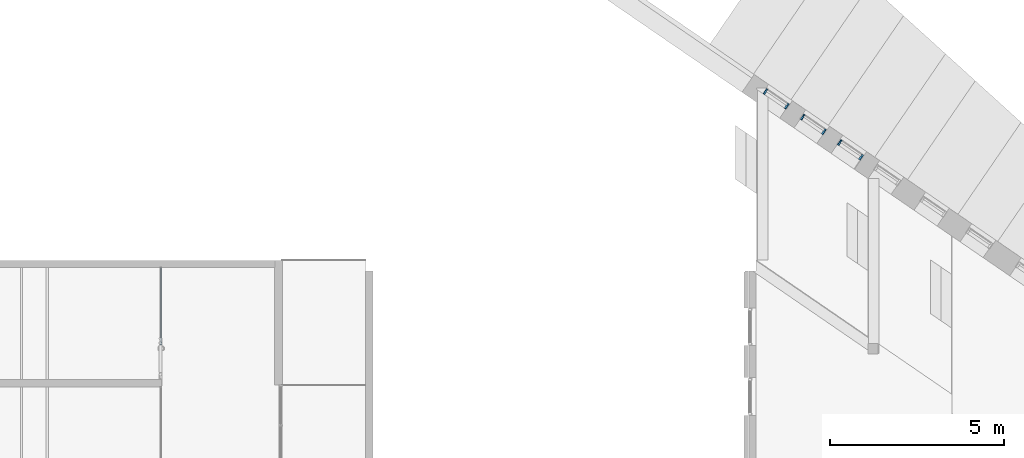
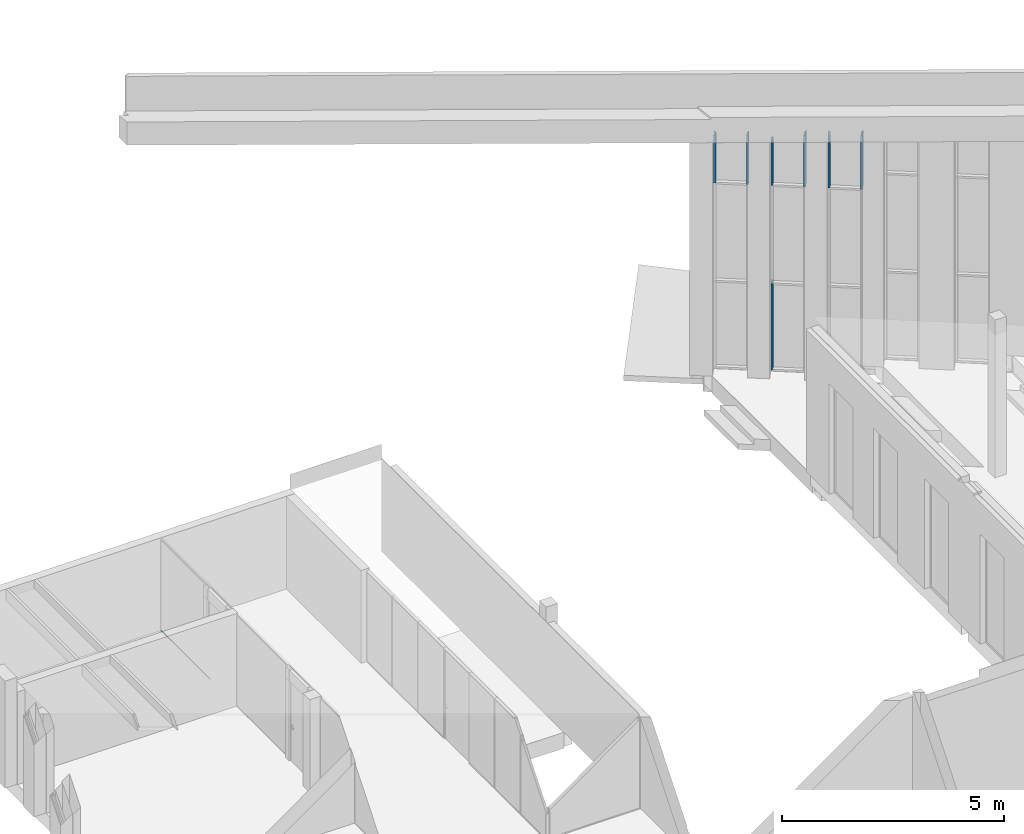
# One storey, part 26 of 79: 8 members, 4 elements without a shape of their own.
"""IFC2X3 building model written with IfcOpenShell, lengths in millimetres."""

from ifc_helpers import new_model, entity, si_unit, converted_unit, derived_unit, money_unit, direction, frame, origin_with_axes, place, context, subcontext, project, spatial, faceted_brep, material, material_list, type_object, element, aggregate, save


model = new_model("IFC2X3")

# Units and contexts
model_context = context("Model", 3, precision=0.01, world=origin_with_axes(), true_north=direction((0.0, 1.0)))
body_context = subcontext(model_context, "Body", "Model", "MODEL_VIEW")
ifc_project = project(units=[si_unit("LENGTHUNIT", "METRE", prefix="MILLI"), si_unit("AREAUNIT", "SQUARE_METRE"), si_unit("VOLUMEUNIT", "CUBIC_METRE"), converted_unit("PLANEANGLEUNIT", "DEGREE", entity("IfcPlaneAngleMeasure", 0.0174532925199), si_unit("PLANEANGLEUNIT", "RADIAN"), dimensions=[0, 0, 0, 0, 0, 0, 0]), si_unit("SOLIDANGLEUNIT", "STERADIAN"), money_unit("EUR"), converted_unit("TIMEUNIT", "Year", entity("IfcTimeMeasure", 31556926.0), si_unit("TIMEUNIT", "SECOND"), dimensions=[0, 0, 1, 0, 0, 0, 0]), si_unit("MASSUNIT", "GRAM", prefix="KILO"), si_unit("THERMODYNAMICTEMPERATUREUNIT", "DEGREE_CELSIUS"), si_unit("LUMINOUSINTENSITYUNIT", "LUMEN"), si_unit("ENERGYUNIT", "JOULE", prefix="MEGA"), derived_unit("THERMALCONDUCTANCEUNIT", [(si_unit("POWERUNIT", "WATT"), 1), (si_unit("LENGTHUNIT", "METRE"), -1), (si_unit("THERMODYNAMICTEMPERATUREUNIT", "KELVIN"), -1)]), derived_unit("SPECIFICHEATCAPACITYUNIT", [(si_unit("ENERGYUNIT", "JOULE"), 1), (si_unit("MASSUNIT", "GRAM", prefix="KILO"), -1), (si_unit("THERMODYNAMICTEMPERATUREUNIT", "KELVIN"), -1)]), derived_unit("MASSDENSITYUNIT", [(si_unit("MASSUNIT", "GRAM", prefix="KILO"), 1), (si_unit("VOLUMEUNIT", "CUBIC_METRE"), -1)])], contexts=[model_context])

# Site, building, storey
site_placement = place(None, origin_with_axes())
site = spatial("IfcSite", under=ifc_project, at=site_placement, Name="L.Koidula tn 11b", CompositionType="ELEMENT")
building_placement = place(site_placement, origin_with_axes())
building = spatial("IfcBuilding", under=site, at=building_placement, Name="Rakvere Riigigümnaasium", CompositionType="ELEMENT")
storey_placement = place(building_placement, frame((0.0, 0.0, 3720.0), z_axis=(0.0, 0.0, 1.0), x_axis=(1.0, 0.0, 0.0)))
storey = spatial("IfcBuildingStorey", under=building, at=storey_placement, Name="2.korrus +3,72", CompositionType="ELEMENT", Elevation=3720.0)

# Curtain wall, members
curtain_wall_type = type_object("IfcCurtainWallType", Name="Curtain Wall Type", PredefinedType="NOTDEFINED")
curtain_wall_1_placement = place(storey_placement, frame((58784.8898209, 36159.1031473, -1860.00002162), z_axis=(0.0, 0.0, 1.0), x_axis=(1.0, 0.0, 0.0)))
curtain_wall_1 = element("IfcCurtainWall", 1, at=curtain_wall_1_placement, inside=storey, type_object=curtain_wall_type, Name="KLF-06-21")
ifc_material_1 = material(Name="Alumiiniumprofiil (RAL 7021)")
member_type_1 = type_object("IfcMemberType", Name="Boundary Frame 50 x 170", PredefinedType="MULLION")
member_1_placement = place(curtain_wall_1_placement, frame((325.567600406, -223.299350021, 5100.00007855), z_axis=(-5.18690348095e-09, 3.55757891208e-09, 1.0), x_axis=(-0.824666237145, 0.565619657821, -6.28970074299e-09)))
member_1 = element("IfcMember", 2, at=member_1_placement, type_object=member_type_1, material=ifc_material_1, Name="KLF-06-50-Profiilid", ObjectType="MULLION", context=body_context, shape_type="Brep", body=[
    faceted_brep([(36.9999916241, 26.0, 1331.69211326), (49.9999917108, 26.0, 1317.89649849), (49.9999917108, 124.0, 1317.89649849), (-8.62290505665e-06, 124.0, 1370.9565553), (-8.62290505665e-06, -46.0, 1370.9565553), (49.9999917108, -46.0, 1317.89649849), (49.9999917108, -26.0, 1317.89649849), (36.9999916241, -26.0, 1331.69211326), (37.0, 26.0, -6.09086114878e-07), (50.0, 26.0, -5.2732040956e-07), (50.0, 124.0, -5.2732040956e-07), (0.0, 124.0, -8.41805736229e-07), (0.0, -46.0, -8.41805736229e-07), (50.0, -46.0, -5.2732040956e-07), (50.0, -26.0, -5.2732040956e-07), (37.0, -26.0, -6.09086114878e-07)], [[[0, 1, 2, 3, 4, 5, 6, 7]], [[0, 8, 9, 1]], [[9, 10, 2, 1]], [[10, 11, 3, 2]], [[11, 12, 4, 3]], [[12, 13, 5, 4]], [[6, 5, 13, 14]], [[14, 15, 7, 6]], [[7, 15, 8, 0]], [[8, 15, 14, 13, 12, 11, 10, 9]]]),
])
member_2_placement = place(curtain_wall_1_placement, frame((-325.567650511, 223.299384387, 6424.02720864), z_axis=(8.10560454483e-08, -5.55944882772e-08, -1.0), x_axis=(0.824666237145, -0.565619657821, 9.82895194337e-08)))
member_2 = element("IfcMember", 3, at=member_2_placement, type_object=member_type_1, material=ifc_material_1, Name="KLF-06-52-Profiilid", ObjectType="MULLION", context=body_context, shape_type="Brep", body=[
    faceted_brep([(36.999869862, 26.0, 1324.02713707), (49.999869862, 26.0, 1324.02713835), (49.999869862, 124.0, 1324.02713835), (-0.00013013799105, 124.0, 1324.02713343), (-0.00013013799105, -46.0, 1324.02713343), (49.999869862, -46.0, 1324.02713835), (49.999869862, -26.0, 1324.02713835), (36.999869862, -26.0, 1324.02713707), (36.999996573, 26.0, 34.8661585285), (49.999995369, 26.0, 47.1164304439), (49.9999953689, 124.0, 47.1164304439), (0.0, 124.0, 0.0), (0.0, -46.0, 0.0), (49.9999953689, -46.0, 47.1164304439), (49.9999953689, -26.0, 47.1164304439), (36.999996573, -26.0, 34.8661585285)], [[[0, 1, 2, 3, 4, 5, 6, 7]], [[0, 8, 9, 1]], [[9, 10, 2, 1]], [[2, 10, 11, 3]], [[3, 11, 12, 4]], [[4, 12, 13, 5]], [[6, 5, 13, 14]], [[14, 15, 7, 6]], [[7, 15, 8, 0]], [[8, 15, 14, 13, 12, 11, 10, 9]]]),
])
aggregate(curtain_wall_1, [member_1, member_2])

curtain_wall_2_placement = place(storey_placement, frame((59849.7544247, 35428.7459613, -1860.00000854), z_axis=(0.0, 0.0, 1.0), x_axis=(1.0, 0.0, 0.0)))
curtain_wall_2 = element("IfcCurtainWall", 4, at=curtain_wall_2_placement, inside=storey, type_object=curtain_wall_type, Name="KLF-06-20")
member_3_placement = place(curtain_wall_2_placement, frame((-325.522429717, 223.268368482, 2400.00006547), z_axis=(7.9704368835e-05, -5.46673985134e-05, -0.999999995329), x_axis=(0.824666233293, -0.565619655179, 9.66504571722e-05)))
member_3 = element("IfcMember", 5, at=member_3_placement, type_object=member_type_1, material=ifc_material_1, Name="KLF-06-46-Profiilid", ObjectType="MULLION", context=body_context, shape_type="Brep", body=[
    faceted_brep([(37.0, 26.0, 2363.00365257), (50.0, 26.0, 2350.00490897), (50.0, 124.0, 2350.00490897), (0.0, 124.0, 2400.00007668), (0.0, -46.0, 2400.00007668), (50.0, -46.0, 2350.00490897), (50.0, -26.0, 2350.00490897), (37.0, -26.0, 2363.00365257), (37.0, 26.0, -0.000152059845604), (50.0, 26.0, -0.000152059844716), (50.0, 124.0, -0.000152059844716), (0.0, 124.0, -0.000152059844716), (0.0, -46.0, -0.000152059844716), (50.0, -46.0, -0.000152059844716), (50.0, -26.0, -0.000152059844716), (37.0, -26.0, -0.000152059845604)], [[[0, 1, 2, 3, 4, 5, 6, 7]], [[0, 8, 9, 1]], [[9, 10, 2, 1]], [[10, 11, 3, 2]], [[11, 12, 4, 3]], [[12, 13, 5, 4]], [[6, 5, 13, 14]], [[14, 15, 7, 6]], [[7, 15, 8, 0]], [[8, 15, 14, 13, 12, 11, 10, 9]]]),
])
member_4_placement = place(curtain_wall_2_placement, frame((-325.849268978, 223.492540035, 6330.75498279), z_axis=(7.97026370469e-05, -5.46662107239e-05, -0.99999999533), x_axis=(0.824666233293, -0.565619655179, 9.6648357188e-05)))
member_4 = element("IfcMember", 6, at=member_4_placement, type_object=member_type_1, material=ifc_material_1, Name="KLF-06-52-Profiilid", ObjectType="MULLION", context=body_context, shape_type="Brep", body=[
    faceted_brep([(37.0, 26.0, 1230.75507518), (50.0, 26.0, 1230.75507518), (50.0, 124.0, 1230.75507518), (0.0, 124.0, 1230.75507518), (0.0, -46.0, 1230.75507518), (50.0, -46.0, 1230.75507518), (50.0, -26.0, 1230.75507518), (37.0, -26.0, 1230.75507518), (37.0, 26.0, -0.00242447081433), (50.0, 26.0, -0.00242447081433), (50.0, 124.0, -0.00242447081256), (0.0, 124.0, -0.00242447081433), (0.0, -46.0, -0.00242447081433), (50.0, -46.0, -0.00242447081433), (50.0, -26.0, -0.00242447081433), (37.0, -26.0, -0.00242447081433)], [[[0, 1, 2, 3, 4, 5, 6, 7]], [[0, 8, 9, 1]], [[9, 10, 2, 1]], [[10, 11, 3, 2]], [[11, 12, 4, 3]], [[12, 13, 5, 4]], [[6, 5, 13, 14]], [[14, 15, 7, 6]], [[7, 15, 8, 0]], [[8, 15, 14, 13, 12, 11, 10, 9]]]),
])
member_5_placement = place(curtain_wall_2_placement, frame((325.636841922, -223.346841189, 5100.00006547), z_axis=(-2.21272938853e-09, 1.51766152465e-09, 1.0), x_axis=(-0.824666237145, 0.565619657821, -2.68318241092e-09)))
member_5 = element("IfcMember", 7, at=member_5_placement, type_object=member_type_1, material=ifc_material_1, Name="KLF-06-50-Profiilid", ObjectType="MULLION", context=body_context, shape_type="Brep", body=[
    faceted_brep([(36.9999962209, 26.0, 1408.44514609), (49.9999962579, 26.0, 1394.64953102), (49.9999962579, 124.0, 1394.64953102), (-3.88447318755e-06, 124.0, 1447.709589), (-3.88446963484e-06, -46.0, 1447.709589), (49.9999962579, -46.0, 1394.64953102), (49.9999962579, -26.0, 1394.64953102), (36.9999962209, -26.0, 1408.44514609), (37.0, 26.0, -8.61108517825e-07), (50.0, 26.0, -8.26227086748e-07), (50.0, 124.0, -8.26227086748e-07), (0.0, 124.0, -9.60386437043e-07), (0.0, -46.0, -9.60385548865e-07), (50.0, -46.0, -8.26227086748e-07), (50.0, -26.0, -8.26227086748e-07), (37.0, -26.0, -8.61108517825e-07)], [[[0, 1, 2, 3, 4, 5, 6, 7]], [[0, 8, 9, 1]], [[9, 10, 2, 1]], [[10, 11, 3, 2]], [[11, 12, 4, 3]], [[12, 13, 5, 4]], [[6, 5, 13, 14]], [[14, 15, 7, 6]], [[7, 15, 8, 0]], [[8, 15, 14, 13, 12, 11, 10, 9]]]),
])
aggregate(curtain_wall_2, [member_3, member_4, member_5])

curtain_wall_3_placement = place(storey_placement, frame((60913.4534613, 34699.1792069, -1860.00008737), z_axis=(0.0, 0.0, 1.0), x_axis=(1.0, 0.0, 0.0)))
curtain_wall_3 = element("IfcCurtainWall", 8, at=curtain_wall_3_placement, inside=storey, type_object=curtain_wall_type, Name="KLF-06-19")
member_6_placement = place(curtain_wall_3_placement, frame((-325.743140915, 223.419749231, 6577.42703329), z_axis=(2.41035381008e-08, -1.65320624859e-08, -1.0), x_axis=(0.824666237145, -0.565619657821, 2.92282335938e-08)))
member_6 = element("IfcMember", 9, at=member_6_placement, type_object=member_type_1, material=ifc_material_1, Name="KLF-06-67-Profiilid", ObjectType="MULLION", context=body_context, shape_type="Brep", body=[
    faceted_brep([(36.9999568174, 26.0, 1477.4268908), (49.9999568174, 26.0, 1477.42689118), (49.9999568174, 124.0, 1477.42689118), (-4.31825775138e-05, 124.0, 1477.42688972), (-4.31825810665e-05, -46.0, 1477.42688972), (49.9999568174, -46.0, 1477.42689118), (49.9999568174, -26.0, 1477.42689118), (36.9999568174, -26.0, 1477.4268908), (36.9999989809, 26.0, 34.8661490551), (49.9999986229, 26.0, 47.116417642), (49.9999986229, 124.0, 47.116417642), (0.0, 124.0, 0.0), (0.0, -46.0, 0.0), (49.9999986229, -46.0, 47.116417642), (49.9999986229, -26.0, 47.116417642), (36.9999989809, -26.0, 34.8661490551)], [[[0, 1, 2, 3, 4, 5, 6, 7]], [[0, 8, 9, 1]], [[9, 10, 2, 1]], [[2, 10, 11, 3]], [[3, 11, 12, 4]], [[4, 12, 13, 5]], [[6, 5, 13, 14]], [[14, 15, 7, 6]], [[7, 15, 8, 0]], [[8, 15, 14, 13, 12, 11, 10, 9]]]),
])
member_7_placement = place(curtain_wall_3_placement, frame((325.743177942, -223.419774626, 5100.0001443), z_axis=(9.23063362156e-08, -6.33108017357e-08, 1.0), x_axis=(-0.824666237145, 0.565619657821, 1.11931752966e-07)))
member_7 = element("IfcMember", 10, at=member_7_placement, type_object=member_type_1, material=ifc_material_1, Name="KLF-06-65-Profiilid", ObjectType="MULLION", context=body_context, shape_type="Brep", body=[
    faceted_brep([(37.0001662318, 26.0, 1485.1172736), (50.0001646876, 26.0, 1471.32165388), (50.0001646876, 124.0, 1471.32165388), (0.000170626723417, 124.0, 1524.38172974), (0.000170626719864, -46.0, 1524.38172974), (50.0001646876, -46.0, 1471.32165388), (50.0001646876, -26.0, 1471.32165388), (37.0001662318, -26.0, 1485.1172736), (37.0, 26.0, -5.30863886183e-06), (50.0, 26.0, -6.76375133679e-06), (50.0, 124.0, -6.76375133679e-06), (0.0, 124.0, -1.16716325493e-06), (0.0, -46.0, -1.16716414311e-06), (50.0, -46.0, -6.76375133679e-06), (50.0, -26.0, -6.76375133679e-06), (37.0, -26.0, -5.30863886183e-06)], [[[0, 1, 2, 3, 4, 5, 6, 7]], [[0, 8, 9, 1]], [[9, 10, 2, 1]], [[10, 11, 3, 2]], [[11, 12, 4, 3]], [[12, 13, 5, 4]], [[6, 5, 13, 14]], [[14, 15, 7, 6]], [[7, 15, 8, 0]], [[8, 15, 14, 13, 12, 11, 10, 9]]]),
])
aggregate(curtain_wall_3, [member_6, member_7])

# Curtain wall, member
curtain_wall_4_placement = place(storey_placement, frame((41130.915445, 28609.9592257, 0.0), z_axis=(0.0, 0.0, 1.0), x_axis=(1.0, 0.0, 0.0)))
curtain_wall_4 = element("IfcCurtainWall", 11, at=curtain_wall_4_placement, inside=storey, type_object=curtain_wall_type, Name="SKLF-16")
ifc_material_2 = material(Name="Klaasvill")
ifc_material_3 = material(Name="Alumiiniumprofiil")
ifc_material_list = material_list([ifc_material_2, ifc_material_3])
member_type_2 = type_object("IfcMemberType", Name="Boundary Frame 17 x 1", PredefinedType="MULLION")
member_8_placement = place(curtain_wall_4_placement, frame((0.021911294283, 519.999999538, 0.0), z_axis=(4.21371043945e-05, 0.999999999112, 0.0), x_axis=(0.0, 0.0, 1.0)))
member_8 = element("IfcMember", 12, at=member_8_placement, type_object=member_type_2, material=ifc_material_list, Name="PV-SKLF-40-raam", ObjectType="MULLION", context=body_context, shape_type="Brep", body=[
    faceted_brep([(2.00001937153, 5.00000000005, -54.9999995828), (2.00001937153, 4.99999999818, 2158.49747678), (8.35001937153, 4.99999999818, 2152.14747678), (8.35001937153, 5.00000000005, -54.9999995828), (2.00001937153, -9.01614452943, -54.9999995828), (2.00001937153, -9.0161445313, 2158.49747678), (8.35001937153, -9.01614453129, 2152.14747678), (8.35001937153, -9.01614452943, -54.9999995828)], [[[0, 1, 2, 3]], [[4, 5, 1, 0]], [[1, 5, 6, 2]], [[3, 2, 6, 7]], [[0, 3, 7, 4]], [[7, 6, 5, 4]]]),
    faceted_brep([(11.987414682, -9.01614444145, -54.9999995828), (11.987414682, -9.0161444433, 2148.51008147), (12.004489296, -7.0307503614, 2148.49300686), (12.004489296, -7.03075035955, -54.9999995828), (15.5126239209, -9.01614444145, -54.9999995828), (15.5126239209, -9.0161444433, 2144.98487223), (15.7655837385, -8.03853257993, 2144.73191242), (15.4955493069, -7.0307503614, 2145.00194685), (14.75780152, -6.29300257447, 2145.73969463), (13.7500193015, -6.02296814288, 2146.74747685), (12.742237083, -6.29300257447, 2147.75525907), (12.742237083, -6.29300257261, -54.9999995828), (13.7500193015, -6.02296814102, -54.9999995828), (14.75780152, -6.29300257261, -54.9999995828), (15.4955493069, -7.03075035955, -54.9999995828), (15.7655837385, -8.03853257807, -54.9999995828)], [[[0, 1, 2, 3]], [[4, 5, 1, 0]], [[1, 5, 6, 7, 8, 9, 10, 2]], [[3, 2, 10, 11]], [[0, 3, 11, 12, 13, 14, 15, 4]], [[15, 6, 5, 4]], [[14, 7, 6, 15]], [[13, 8, 7, 14]], [[12, 9, 8, 13]], [[11, 10, 9, 12]]]),
    faceted_brep([(0.0, 8.00000000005, -54.9999995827), (0.0, 7.99999999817, 2160.49749615), (17.0000193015, 7.99999999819, 2143.49747685), (17.0000193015, 8.00000000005, -54.9999995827), (0.0, -12.0, -54.9999995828), (0.0, -12.0000000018, 2160.49749615), (17.0000193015, -12.0000000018, 2143.49747685), (17.0000193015, -9.0161444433, 2143.49747685), (15.5126239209, -9.0161444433, 2144.98487223), (11.987414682, -9.0161444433, 2148.51008147), (8.35001937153, -9.01614453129, 2152.14747678), (2.00001930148, -9.01614444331, 2158.49747685), (2.00001930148, 4.99999999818, 2158.49747685), (8.35001937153, 4.99999999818, 2152.14747678), (17.0000193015, 4.99999999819, 2143.49747685), (17.0000193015, 5.00000000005, -54.9999995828), (8.35001937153, 5.00000000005, -54.9999995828), (2.00001930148, 5.00000000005, -54.9999995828), (2.00001930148, -9.01614444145, -54.9999995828), (8.35001937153, -9.01614452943, -54.9999995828), (11.987414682, -9.01614444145, -54.9999995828), (15.5126239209, -9.01614444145, -54.9999995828), (17.0000193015, -9.01614444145, -54.9999995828), (17.0000193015, -12.0, -54.9999995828)], [[[0, 1, 2, 3]], [[4, 5, 1, 0]], [[1, 5, 6, 7, 8, 9, 10, 11, 12, 13, 14, 2]], [[3, 2, 14, 15]], [[0, 3, 15, 16, 17, 18, 19, 20, 21, 22, 23, 4]], [[23, 6, 5, 4]], [[22, 7, 6, 23]], [[21, 8, 7, 22]], [[20, 9, 8, 21]], [[19, 10, 9, 20]], [[18, 11, 10, 19]], [[17, 12, 11, 18]], [[16, 13, 12, 17]], [[15, 14, 13, 16]]]),
])
aggregate(curtain_wall_4, [member_8])

save(model, "model.ifc")
